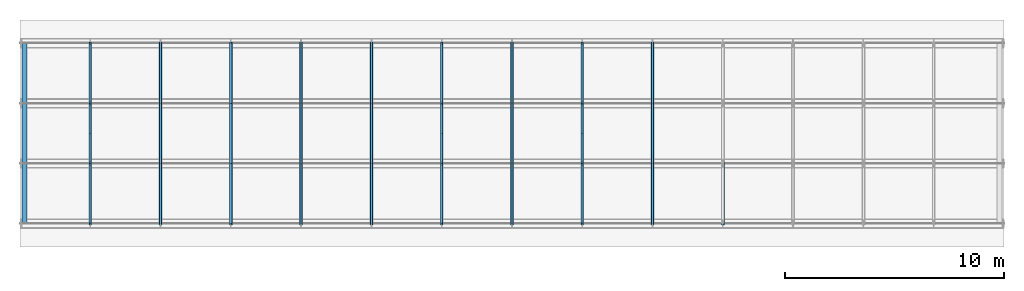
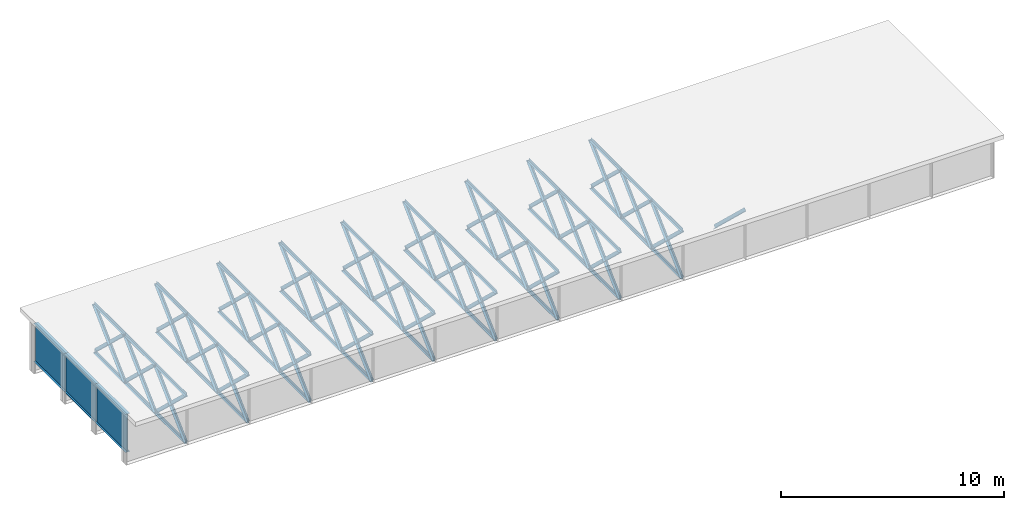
# One storey, part 1 of 13: 112 members.
"""IFC4 building model written with IfcOpenShell, lengths in metres."""

from ifc_helpers import new_model, si_unit, frame, origin, origin_with_axes, origin_2d_with_axis, place, context, subcontext, project, spatial, i_section, l_section, extrude, element, save


model = new_model("IFC4")

# Units and contexts
model_context = context("Model", 3, precision=1e-05, world=origin())
body_context = subcontext(model_context, "Body", "Model", "MODEL_VIEW")
ifc_project = project(units=[si_unit("LENGTHUNIT", "METRE"), si_unit("AREAUNIT", "SQUARE_METRE"), si_unit("VOLUMEUNIT", "CUBIC_METRE"), si_unit("PLANEANGLEUNIT", "RADIAN")], contexts=[model_context])

# Site, building, storey
site_placement = place(None, origin_with_axes())
site = spatial("IfcSite", under=ifc_project, at=site_placement, Name="Default Site")
building_placement = place(site_placement, origin_with_axes())
building = spatial("IfcBuilding", under=site, at=building_placement, Name="Bridge Structure")
storey_placement = place(building_placement, origin_with_axes())
storey = spatial("IfcBuildingStorey", under=building, at=storey_placement, Name="Superstructure")

# Members
for number, where, z_axis, x_axis, name in (
    (1, (0.2, -4.125, 0.261), (0.0, 1.0, 0.0), (-1.0, 0.0, 0.0), "End Diaphragm"),
    (2, (0.2, -1.375, 0.261), (0.0, 1.0, 0.0), (-1.0, 0.0, 0.0), "End Diaphragm"),
    (3, (0.2, 1.375, 0.261), (0.0, 1.0, 0.0), (-1.0, 0.0, 0.0), "End Diaphragm"),
):
    element("IfcMember", number, at=place(storey_placement, frame(where, z_axis=z_axis, x_axis=x_axis)), inside=storey, Name=name, context=body_context, shape_type="SweptSolid", body=[
        extrude(i_section(OverallWidth=0.225, OverallDepth=2.088, WebThickness=0.022, FlangeThickness=0.012, at=origin_2d_with_axis()), origin_with_axes(), (0.0, 0.0, 1.0), 2.75),
    ])
for number, where, z_axis, x_axis, name in (
    (4, (3.2142857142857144, -4.125, 1.305), (0.0, 0.7253286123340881, -0.6884027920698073), (-1.0, 0.0, 0.0), "Diagonal Brace"),
    (5, (3.2142857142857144, -4.125, -1.305), (0.0, 0.7253286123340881, 0.6884027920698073), (-1.0, 0.0, 0.0), "Diagonal Brace"),
):
    element("IfcMember", number, at=place(storey_placement, frame(where, z_axis=z_axis, x_axis=x_axis)), inside=storey, Name=name, context=body_context, shape_type="SweptSolid", body=[
        extrude(l_section(Depth=0.195, Width=0.13, Thickness=0.008, at=origin_2d_with_axis()), origin_with_axes(), (0.0, 0.0, 1.0), 3.791384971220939),
    ])
for number, where, z_axis, x_axis, name in (
    (6, (3.2142857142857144, -4.125, -1.305), (0.0, 1.0, 0.0), (-1.0, 0.0, 0.0), "Bottom Chord"),
    (7, (3.2142857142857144, -4.125, 1.305), (0.0, 1.0, 0.0), (-1.0, 0.0, 0.0), "Top Chord"),
):
    element("IfcMember", number, at=place(storey_placement, frame(where, z_axis=z_axis, x_axis=x_axis)), inside=storey, Name=name, context=body_context, shape_type="SweptSolid", body=[
        extrude(l_section(Depth=0.169, Width=0.10400000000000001, Thickness=0.008, at=origin_2d_with_axis()), origin_with_axes(), (0.0, 0.0, 1.0), 2.75),
    ])
for number, where, z_axis, x_axis, name in (
    (8, (3.2142857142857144, -1.375, 1.305), (0.0, 0.7253286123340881, -0.6884027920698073), (-1.0, 0.0, 0.0), "Diagonal Brace"),
    (9, (3.2142857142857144, -1.375, -1.305), (0.0, 0.7253286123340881, 0.6884027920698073), (-1.0, 0.0, 0.0), "Diagonal Brace"),
):
    element("IfcMember", number, at=place(storey_placement, frame(where, z_axis=z_axis, x_axis=x_axis)), inside=storey, Name=name, context=body_context, shape_type="SweptSolid", body=[
        extrude(l_section(Depth=0.195, Width=0.13, Thickness=0.008, at=origin_2d_with_axis()), origin_with_axes(), (0.0, 0.0, 1.0), 3.791384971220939),
    ])
for number, where, z_axis, x_axis, name in (
    (10, (3.2142857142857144, -1.375, -1.305), (0.0, 1.0, 0.0), (-1.0, 0.0, 0.0), "Bottom Chord"),
    (11, (3.2142857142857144, -1.375, 1.305), (0.0, 1.0, 0.0), (-1.0, 0.0, 0.0), "Top Chord"),
):
    element("IfcMember", number, at=place(storey_placement, frame(where, z_axis=z_axis, x_axis=x_axis)), inside=storey, Name=name, context=body_context, shape_type="SweptSolid", body=[
        extrude(l_section(Depth=0.169, Width=0.10400000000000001, Thickness=0.008, at=origin_2d_with_axis()), origin_with_axes(), (0.0, 0.0, 1.0), 2.75),
    ])
for number, where, z_axis, x_axis, name in (
    (12, (3.2142857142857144, 1.375, 1.305), (0.0, 0.7253286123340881, -0.6884027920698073), (-1.0, 0.0, 0.0), "Diagonal Brace"),
    (13, (3.2142857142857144, 1.375, -1.305), (0.0, 0.7253286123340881, 0.6884027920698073), (-1.0, 0.0, 0.0), "Diagonal Brace"),
):
    element("IfcMember", number, at=place(storey_placement, frame(where, z_axis=z_axis, x_axis=x_axis)), inside=storey, Name=name, context=body_context, shape_type="SweptSolid", body=[
        extrude(l_section(Depth=0.195, Width=0.13, Thickness=0.008, at=origin_2d_with_axis()), origin_with_axes(), (0.0, 0.0, 1.0), 3.791384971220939),
    ])
for number, where, z_axis, x_axis, name in (
    (14, (3.2142857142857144, 1.375, -1.305), (0.0, 1.0, 0.0), (-1.0, 0.0, 0.0), "Bottom Chord"),
    (15, (3.2142857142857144, 1.375, 1.305), (0.0, 1.0, 0.0), (-1.0, 0.0, 0.0), "Top Chord"),
):
    element("IfcMember", number, at=place(storey_placement, frame(where, z_axis=z_axis, x_axis=x_axis)), inside=storey, Name=name, context=body_context, shape_type="SweptSolid", body=[
        extrude(l_section(Depth=0.169, Width=0.10400000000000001, Thickness=0.008, at=origin_2d_with_axis()), origin_with_axes(), (0.0, 0.0, 1.0), 2.75),
    ])
for number, where, z_axis, x_axis, name in (
    (16, (6.428571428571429, -4.125, 1.305), (0.0, 0.7253286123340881, -0.6884027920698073), (-1.0, 0.0, 0.0), "Diagonal Brace"),
    (17, (6.428571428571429, -4.125, -1.305), (0.0, 0.7253286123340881, 0.6884027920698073), (-1.0, 0.0, 0.0), "Diagonal Brace"),
):
    element("IfcMember", number, at=place(storey_placement, frame(where, z_axis=z_axis, x_axis=x_axis)), inside=storey, Name=name, context=body_context, shape_type="SweptSolid", body=[
        extrude(l_section(Depth=0.195, Width=0.13, Thickness=0.008, at=origin_2d_with_axis()), origin_with_axes(), (0.0, 0.0, 1.0), 3.791384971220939),
    ])
for number, where, z_axis, x_axis, name in (
    (18, (6.428571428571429, -4.125, -1.305), (0.0, 1.0, 0.0), (-1.0, 0.0, 0.0), "Bottom Chord"),
    (19, (6.428571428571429, -4.125, 1.305), (0.0, 1.0, 0.0), (-1.0, 0.0, 0.0), "Top Chord"),
):
    element("IfcMember", number, at=place(storey_placement, frame(where, z_axis=z_axis, x_axis=x_axis)), inside=storey, Name=name, context=body_context, shape_type="SweptSolid", body=[
        extrude(l_section(Depth=0.169, Width=0.10400000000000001, Thickness=0.008, at=origin_2d_with_axis()), origin_with_axes(), (0.0, 0.0, 1.0), 2.75),
    ])
for number, where, z_axis, x_axis, name in (
    (20, (6.428571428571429, -1.375, 1.305), (0.0, 0.7253286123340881, -0.6884027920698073), (-1.0, 0.0, 0.0), "Diagonal Brace"),
    (21, (6.428571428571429, -1.375, -1.305), (0.0, 0.7253286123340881, 0.6884027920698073), (-1.0, 0.0, 0.0), "Diagonal Brace"),
):
    element("IfcMember", number, at=place(storey_placement, frame(where, z_axis=z_axis, x_axis=x_axis)), inside=storey, Name=name, context=body_context, shape_type="SweptSolid", body=[
        extrude(l_section(Depth=0.195, Width=0.13, Thickness=0.008, at=origin_2d_with_axis()), origin_with_axes(), (0.0, 0.0, 1.0), 3.791384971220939),
    ])
for number, where, z_axis, x_axis, name in (
    (22, (6.428571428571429, -1.375, -1.305), (0.0, 1.0, 0.0), (-1.0, 0.0, 0.0), "Bottom Chord"),
    (23, (6.428571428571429, -1.375, 1.305), (0.0, 1.0, 0.0), (-1.0, 0.0, 0.0), "Top Chord"),
):
    element("IfcMember", number, at=place(storey_placement, frame(where, z_axis=z_axis, x_axis=x_axis)), inside=storey, Name=name, context=body_context, shape_type="SweptSolid", body=[
        extrude(l_section(Depth=0.169, Width=0.10400000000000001, Thickness=0.008, at=origin_2d_with_axis()), origin_with_axes(), (0.0, 0.0, 1.0), 2.75),
    ])
for number, where, z_axis, x_axis, name in (
    (24, (6.428571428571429, 1.375, 1.305), (0.0, 0.7253286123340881, -0.6884027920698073), (-1.0, 0.0, 0.0), "Diagonal Brace"),
    (25, (6.428571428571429, 1.375, -1.305), (0.0, 0.7253286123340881, 0.6884027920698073), (-1.0, 0.0, 0.0), "Diagonal Brace"),
):
    element("IfcMember", number, at=place(storey_placement, frame(where, z_axis=z_axis, x_axis=x_axis)), inside=storey, Name=name, context=body_context, shape_type="SweptSolid", body=[
        extrude(l_section(Depth=0.195, Width=0.13, Thickness=0.008, at=origin_2d_with_axis()), origin_with_axes(), (0.0, 0.0, 1.0), 3.791384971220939),
    ])
for number, where, z_axis, x_axis, name in (
    (26, (6.428571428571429, 1.375, -1.305), (0.0, 1.0, 0.0), (-1.0, 0.0, 0.0), "Bottom Chord"),
    (27, (6.428571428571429, 1.375, 1.305), (0.0, 1.0, 0.0), (-1.0, 0.0, 0.0), "Top Chord"),
):
    element("IfcMember", number, at=place(storey_placement, frame(where, z_axis=z_axis, x_axis=x_axis)), inside=storey, Name=name, context=body_context, shape_type="SweptSolid", body=[
        extrude(l_section(Depth=0.169, Width=0.10400000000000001, Thickness=0.008, at=origin_2d_with_axis()), origin_with_axes(), (0.0, 0.0, 1.0), 2.75),
    ])
for number, where, z_axis, x_axis, name in (
    (28, (9.642857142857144, -4.125, 1.305), (0.0, 0.7253286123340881, -0.6884027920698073), (-1.0, 0.0, 0.0), "Diagonal Brace"),
    (29, (9.642857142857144, -4.125, -1.305), (0.0, 0.7253286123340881, 0.6884027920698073), (-1.0, 0.0, 0.0), "Diagonal Brace"),
):
    element("IfcMember", number, at=place(storey_placement, frame(where, z_axis=z_axis, x_axis=x_axis)), inside=storey, Name=name, context=body_context, shape_type="SweptSolid", body=[
        extrude(l_section(Depth=0.195, Width=0.13, Thickness=0.008, at=origin_2d_with_axis()), origin_with_axes(), (0.0, 0.0, 1.0), 3.791384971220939),
    ])
for number, where, z_axis, x_axis, name in (
    (30, (9.642857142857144, -4.125, -1.305), (0.0, 1.0, 0.0), (-1.0, 0.0, 0.0), "Bottom Chord"),
    (31, (9.642857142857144, -4.125, 1.305), (0.0, 1.0, 0.0), (-1.0, 0.0, 0.0), "Top Chord"),
):
    element("IfcMember", number, at=place(storey_placement, frame(where, z_axis=z_axis, x_axis=x_axis)), inside=storey, Name=name, context=body_context, shape_type="SweptSolid", body=[
        extrude(l_section(Depth=0.169, Width=0.10400000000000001, Thickness=0.008, at=origin_2d_with_axis()), origin_with_axes(), (0.0, 0.0, 1.0), 2.75),
    ])
for number, where, z_axis, x_axis, name in (
    (32, (9.642857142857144, -1.375, 1.305), (0.0, 0.7253286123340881, -0.6884027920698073), (-1.0, 0.0, 0.0), "Diagonal Brace"),
    (33, (9.642857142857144, -1.375, -1.305), (0.0, 0.7253286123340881, 0.6884027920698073), (-1.0, 0.0, 0.0), "Diagonal Brace"),
):
    element("IfcMember", number, at=place(storey_placement, frame(where, z_axis=z_axis, x_axis=x_axis)), inside=storey, Name=name, context=body_context, shape_type="SweptSolid", body=[
        extrude(l_section(Depth=0.195, Width=0.13, Thickness=0.008, at=origin_2d_with_axis()), origin_with_axes(), (0.0, 0.0, 1.0), 3.791384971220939),
    ])
for number, where, z_axis, x_axis, name in (
    (34, (9.642857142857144, -1.375, -1.305), (0.0, 1.0, 0.0), (-1.0, 0.0, 0.0), "Bottom Chord"),
    (35, (9.642857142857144, -1.375, 1.305), (0.0, 1.0, 0.0), (-1.0, 0.0, 0.0), "Top Chord"),
):
    element("IfcMember", number, at=place(storey_placement, frame(where, z_axis=z_axis, x_axis=x_axis)), inside=storey, Name=name, context=body_context, shape_type="SweptSolid", body=[
        extrude(l_section(Depth=0.169, Width=0.10400000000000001, Thickness=0.008, at=origin_2d_with_axis()), origin_with_axes(), (0.0, 0.0, 1.0), 2.75),
    ])
for number, where, z_axis, x_axis, name in (
    (36, (9.642857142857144, 1.375, 1.305), (0.0, 0.7253286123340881, -0.6884027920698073), (-1.0, 0.0, 0.0), "Diagonal Brace"),
    (37, (9.642857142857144, 1.375, -1.305), (0.0, 0.7253286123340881, 0.6884027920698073), (-1.0, 0.0, 0.0), "Diagonal Brace"),
):
    element("IfcMember", number, at=place(storey_placement, frame(where, z_axis=z_axis, x_axis=x_axis)), inside=storey, Name=name, context=body_context, shape_type="SweptSolid", body=[
        extrude(l_section(Depth=0.195, Width=0.13, Thickness=0.008, at=origin_2d_with_axis()), origin_with_axes(), (0.0, 0.0, 1.0), 3.791384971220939),
    ])
for number, where, z_axis, x_axis, name in (
    (38, (9.642857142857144, 1.375, -1.305), (0.0, 1.0, 0.0), (-1.0, 0.0, 0.0), "Bottom Chord"),
    (39, (9.642857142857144, 1.375, 1.305), (0.0, 1.0, 0.0), (-1.0, 0.0, 0.0), "Top Chord"),
):
    element("IfcMember", number, at=place(storey_placement, frame(where, z_axis=z_axis, x_axis=x_axis)), inside=storey, Name=name, context=body_context, shape_type="SweptSolid", body=[
        extrude(l_section(Depth=0.169, Width=0.10400000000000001, Thickness=0.008, at=origin_2d_with_axis()), origin_with_axes(), (0.0, 0.0, 1.0), 2.75),
    ])
for number, where, z_axis, x_axis, name in (
    (40, (12.857142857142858, -4.125, 1.305), (0.0, 0.7253286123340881, -0.6884027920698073), (-1.0, 0.0, 0.0), "Diagonal Brace"),
    (41, (12.857142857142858, -4.125, -1.305), (0.0, 0.7253286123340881, 0.6884027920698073), (-1.0, 0.0, 0.0), "Diagonal Brace"),
):
    element("IfcMember", number, at=place(storey_placement, frame(where, z_axis=z_axis, x_axis=x_axis)), inside=storey, Name=name, context=body_context, shape_type="SweptSolid", body=[
        extrude(l_section(Depth=0.195, Width=0.13, Thickness=0.008, at=origin_2d_with_axis()), origin_with_axes(), (0.0, 0.0, 1.0), 3.791384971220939),
    ])
for number, where, z_axis, x_axis, name in (
    (42, (12.857142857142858, -4.125, -1.305), (0.0, 1.0, 0.0), (-1.0, 0.0, 0.0), "Bottom Chord"),
    (43, (12.857142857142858, -4.125, 1.305), (0.0, 1.0, 0.0), (-1.0, 0.0, 0.0), "Top Chord"),
):
    element("IfcMember", number, at=place(storey_placement, frame(where, z_axis=z_axis, x_axis=x_axis)), inside=storey, Name=name, context=body_context, shape_type="SweptSolid", body=[
        extrude(l_section(Depth=0.169, Width=0.10400000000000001, Thickness=0.008, at=origin_2d_with_axis()), origin_with_axes(), (0.0, 0.0, 1.0), 2.75),
    ])
for number, where, z_axis, x_axis, name in (
    (44, (12.857142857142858, -1.375, 1.305), (0.0, 0.7253286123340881, -0.6884027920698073), (-1.0, 0.0, 0.0), "Diagonal Brace"),
    (45, (12.857142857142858, -1.375, -1.305), (0.0, 0.7253286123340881, 0.6884027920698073), (-1.0, 0.0, 0.0), "Diagonal Brace"),
):
    element("IfcMember", number, at=place(storey_placement, frame(where, z_axis=z_axis, x_axis=x_axis)), inside=storey, Name=name, context=body_context, shape_type="SweptSolid", body=[
        extrude(l_section(Depth=0.195, Width=0.13, Thickness=0.008, at=origin_2d_with_axis()), origin_with_axes(), (0.0, 0.0, 1.0), 3.791384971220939),
    ])
for number, where, z_axis, x_axis, name in (
    (46, (12.857142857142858, -1.375, -1.305), (0.0, 1.0, 0.0), (-1.0, 0.0, 0.0), "Bottom Chord"),
    (47, (12.857142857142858, -1.375, 1.305), (0.0, 1.0, 0.0), (-1.0, 0.0, 0.0), "Top Chord"),
):
    element("IfcMember", number, at=place(storey_placement, frame(where, z_axis=z_axis, x_axis=x_axis)), inside=storey, Name=name, context=body_context, shape_type="SweptSolid", body=[
        extrude(l_section(Depth=0.169, Width=0.10400000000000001, Thickness=0.008, at=origin_2d_with_axis()), origin_with_axes(), (0.0, 0.0, 1.0), 2.75),
    ])
for number, where, z_axis, x_axis, name in (
    (48, (12.857142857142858, 1.375, 1.305), (0.0, 0.7253286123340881, -0.6884027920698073), (-1.0, 0.0, 0.0), "Diagonal Brace"),
    (49, (12.857142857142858, 1.375, -1.305), (0.0, 0.7253286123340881, 0.6884027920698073), (-1.0, 0.0, 0.0), "Diagonal Brace"),
):
    element("IfcMember", number, at=place(storey_placement, frame(where, z_axis=z_axis, x_axis=x_axis)), inside=storey, Name=name, context=body_context, shape_type="SweptSolid", body=[
        extrude(l_section(Depth=0.195, Width=0.13, Thickness=0.008, at=origin_2d_with_axis()), origin_with_axes(), (0.0, 0.0, 1.0), 3.791384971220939),
    ])
for number, where, z_axis, x_axis, name in (
    (50, (12.857142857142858, 1.375, -1.305), (0.0, 1.0, 0.0), (-1.0, 0.0, 0.0), "Bottom Chord"),
    (51, (12.857142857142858, 1.375, 1.305), (0.0, 1.0, 0.0), (-1.0, 0.0, 0.0), "Top Chord"),
):
    element("IfcMember", number, at=place(storey_placement, frame(where, z_axis=z_axis, x_axis=x_axis)), inside=storey, Name=name, context=body_context, shape_type="SweptSolid", body=[
        extrude(l_section(Depth=0.169, Width=0.10400000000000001, Thickness=0.008, at=origin_2d_with_axis()), origin_with_axes(), (0.0, 0.0, 1.0), 2.75),
    ])
for number, where, z_axis, x_axis, name in (
    (52, (16.07142857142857, -4.125, 1.305), (0.0, 0.7253286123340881, -0.6884027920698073), (-1.0, 0.0, 0.0), "Diagonal Brace"),
    (53, (16.07142857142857, -4.125, -1.305), (0.0, 0.7253286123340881, 0.6884027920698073), (-1.0, 0.0, 0.0), "Diagonal Brace"),
):
    element("IfcMember", number, at=place(storey_placement, frame(where, z_axis=z_axis, x_axis=x_axis)), inside=storey, Name=name, context=body_context, shape_type="SweptSolid", body=[
        extrude(l_section(Depth=0.195, Width=0.13, Thickness=0.008, at=origin_2d_with_axis()), origin_with_axes(), (0.0, 0.0, 1.0), 3.791384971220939),
    ])
for number, where, z_axis, x_axis, name in (
    (54, (16.07142857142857, -4.125, -1.305), (0.0, 1.0, 0.0), (-1.0, 0.0, 0.0), "Bottom Chord"),
    (55, (16.07142857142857, -4.125, 1.305), (0.0, 1.0, 0.0), (-1.0, 0.0, 0.0), "Top Chord"),
):
    element("IfcMember", number, at=place(storey_placement, frame(where, z_axis=z_axis, x_axis=x_axis)), inside=storey, Name=name, context=body_context, shape_type="SweptSolid", body=[
        extrude(l_section(Depth=0.169, Width=0.10400000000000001, Thickness=0.008, at=origin_2d_with_axis()), origin_with_axes(), (0.0, 0.0, 1.0), 2.75),
    ])
for number, where, z_axis, x_axis, name in (
    (56, (16.07142857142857, -1.375, 1.305), (0.0, 0.7253286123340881, -0.6884027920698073), (-1.0, 0.0, 0.0), "Diagonal Brace"),
    (57, (16.07142857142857, -1.375, -1.305), (0.0, 0.7253286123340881, 0.6884027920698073), (-1.0, 0.0, 0.0), "Diagonal Brace"),
):
    element("IfcMember", number, at=place(storey_placement, frame(where, z_axis=z_axis, x_axis=x_axis)), inside=storey, Name=name, context=body_context, shape_type="SweptSolid", body=[
        extrude(l_section(Depth=0.195, Width=0.13, Thickness=0.008, at=origin_2d_with_axis()), origin_with_axes(), (0.0, 0.0, 1.0), 3.791384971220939),
    ])
for number, where, z_axis, x_axis, name in (
    (58, (16.07142857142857, -1.375, -1.305), (0.0, 1.0, 0.0), (-1.0, 0.0, 0.0), "Bottom Chord"),
    (59, (16.07142857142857, -1.375, 1.305), (0.0, 1.0, 0.0), (-1.0, 0.0, 0.0), "Top Chord"),
):
    element("IfcMember", number, at=place(storey_placement, frame(where, z_axis=z_axis, x_axis=x_axis)), inside=storey, Name=name, context=body_context, shape_type="SweptSolid", body=[
        extrude(l_section(Depth=0.169, Width=0.10400000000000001, Thickness=0.008, at=origin_2d_with_axis()), origin_with_axes(), (0.0, 0.0, 1.0), 2.75),
    ])
for number, where, z_axis, x_axis, name in (
    (60, (16.07142857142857, 1.375, 1.305), (0.0, 0.7253286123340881, -0.6884027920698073), (-1.0, 0.0, 0.0), "Diagonal Brace"),
    (61, (16.07142857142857, 1.375, -1.305), (0.0, 0.7253286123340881, 0.6884027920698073), (-1.0, 0.0, 0.0), "Diagonal Brace"),
):
    element("IfcMember", number, at=place(storey_placement, frame(where, z_axis=z_axis, x_axis=x_axis)), inside=storey, Name=name, context=body_context, shape_type="SweptSolid", body=[
        extrude(l_section(Depth=0.195, Width=0.13, Thickness=0.008, at=origin_2d_with_axis()), origin_with_axes(), (0.0, 0.0, 1.0), 3.791384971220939),
    ])
for number, where, z_axis, x_axis, name in (
    (62, (16.07142857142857, 1.375, -1.305), (0.0, 1.0, 0.0), (-1.0, 0.0, 0.0), "Bottom Chord"),
    (63, (16.07142857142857, 1.375, 1.305), (0.0, 1.0, 0.0), (-1.0, 0.0, 0.0), "Top Chord"),
):
    element("IfcMember", number, at=place(storey_placement, frame(where, z_axis=z_axis, x_axis=x_axis)), inside=storey, Name=name, context=body_context, shape_type="SweptSolid", body=[
        extrude(l_section(Depth=0.169, Width=0.10400000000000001, Thickness=0.008, at=origin_2d_with_axis()), origin_with_axes(), (0.0, 0.0, 1.0), 2.75),
    ])
for number, where, z_axis, x_axis, name in (
    (64, (19.28571428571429, -4.125, 1.305), (0.0, 0.7253286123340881, -0.6884027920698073), (-1.0, 0.0, 0.0), "Diagonal Brace"),
    (65, (19.28571428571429, -4.125, -1.305), (0.0, 0.7253286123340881, 0.6884027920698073), (-1.0, 0.0, 0.0), "Diagonal Brace"),
):
    element("IfcMember", number, at=place(storey_placement, frame(where, z_axis=z_axis, x_axis=x_axis)), inside=storey, Name=name, context=body_context, shape_type="SweptSolid", body=[
        extrude(l_section(Depth=0.195, Width=0.13, Thickness=0.008, at=origin_2d_with_axis()), origin_with_axes(), (0.0, 0.0, 1.0), 3.791384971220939),
    ])
for number, where, z_axis, x_axis, name in (
    (66, (19.28571428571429, -4.125, -1.305), (0.0, 1.0, 0.0), (-1.0, 0.0, 0.0), "Bottom Chord"),
    (67, (19.28571428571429, -4.125, 1.305), (0.0, 1.0, 0.0), (-1.0, 0.0, 0.0), "Top Chord"),
):
    element("IfcMember", number, at=place(storey_placement, frame(where, z_axis=z_axis, x_axis=x_axis)), inside=storey, Name=name, context=body_context, shape_type="SweptSolid", body=[
        extrude(l_section(Depth=0.169, Width=0.10400000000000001, Thickness=0.008, at=origin_2d_with_axis()), origin_with_axes(), (0.0, 0.0, 1.0), 2.75),
    ])
for number, where, z_axis, x_axis, name in (
    (68, (19.28571428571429, -1.375, 1.305), (0.0, 0.7253286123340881, -0.6884027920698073), (-1.0, 0.0, 0.0), "Diagonal Brace"),
    (69, (19.28571428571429, -1.375, -1.305), (0.0, 0.7253286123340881, 0.6884027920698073), (-1.0, 0.0, 0.0), "Diagonal Brace"),
):
    element("IfcMember", number, at=place(storey_placement, frame(where, z_axis=z_axis, x_axis=x_axis)), inside=storey, Name=name, context=body_context, shape_type="SweptSolid", body=[
        extrude(l_section(Depth=0.195, Width=0.13, Thickness=0.008, at=origin_2d_with_axis()), origin_with_axes(), (0.0, 0.0, 1.0), 3.791384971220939),
    ])
for number, where, z_axis, x_axis, name in (
    (70, (19.28571428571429, -1.375, -1.305), (0.0, 1.0, 0.0), (-1.0, 0.0, 0.0), "Bottom Chord"),
    (71, (19.28571428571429, -1.375, 1.305), (0.0, 1.0, 0.0), (-1.0, 0.0, 0.0), "Top Chord"),
):
    element("IfcMember", number, at=place(storey_placement, frame(where, z_axis=z_axis, x_axis=x_axis)), inside=storey, Name=name, context=body_context, shape_type="SweptSolid", body=[
        extrude(l_section(Depth=0.169, Width=0.10400000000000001, Thickness=0.008, at=origin_2d_with_axis()), origin_with_axes(), (0.0, 0.0, 1.0), 2.75),
    ])
for number, where, z_axis, x_axis, name in (
    (72, (19.28571428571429, 1.375, 1.305), (0.0, 0.7253286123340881, -0.6884027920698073), (-1.0, 0.0, 0.0), "Diagonal Brace"),
    (73, (19.28571428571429, 1.375, -1.305), (0.0, 0.7253286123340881, 0.6884027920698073), (-1.0, 0.0, 0.0), "Diagonal Brace"),
):
    element("IfcMember", number, at=place(storey_placement, frame(where, z_axis=z_axis, x_axis=x_axis)), inside=storey, Name=name, context=body_context, shape_type="SweptSolid", body=[
        extrude(l_section(Depth=0.195, Width=0.13, Thickness=0.008, at=origin_2d_with_axis()), origin_with_axes(), (0.0, 0.0, 1.0), 3.791384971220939),
    ])
for number, where, z_axis, x_axis, name in (
    (74, (19.28571428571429, 1.375, -1.305), (0.0, 1.0, 0.0), (-1.0, 0.0, 0.0), "Bottom Chord"),
    (75, (19.28571428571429, 1.375, 1.305), (0.0, 1.0, 0.0), (-1.0, 0.0, 0.0), "Top Chord"),
):
    element("IfcMember", number, at=place(storey_placement, frame(where, z_axis=z_axis, x_axis=x_axis)), inside=storey, Name=name, context=body_context, shape_type="SweptSolid", body=[
        extrude(l_section(Depth=0.169, Width=0.10400000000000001, Thickness=0.008, at=origin_2d_with_axis()), origin_with_axes(), (0.0, 0.0, 1.0), 2.75),
    ])
for number, where, z_axis, x_axis, name in (
    (76, (22.5, -4.125, 1.305), (0.0, 0.7253286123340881, -0.6884027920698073), (-1.0, 0.0, 0.0), "Diagonal Brace"),
    (77, (22.5, -4.125, -1.305), (0.0, 0.7253286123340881, 0.6884027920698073), (-1.0, 0.0, 0.0), "Diagonal Brace"),
):
    element("IfcMember", number, at=place(storey_placement, frame(where, z_axis=z_axis, x_axis=x_axis)), inside=storey, Name=name, context=body_context, shape_type="SweptSolid", body=[
        extrude(l_section(Depth=0.195, Width=0.13, Thickness=0.008, at=origin_2d_with_axis()), origin_with_axes(), (0.0, 0.0, 1.0), 3.791384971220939),
    ])
for number, where, z_axis, x_axis, name in (
    (78, (22.5, -4.125, -1.305), (0.0, 1.0, 0.0), (-1.0, 0.0, 0.0), "Bottom Chord"),
    (79, (22.5, -4.125, 1.305), (0.0, 1.0, 0.0), (-1.0, 0.0, 0.0), "Top Chord"),
):
    element("IfcMember", number, at=place(storey_placement, frame(where, z_axis=z_axis, x_axis=x_axis)), inside=storey, Name=name, context=body_context, shape_type="SweptSolid", body=[
        extrude(l_section(Depth=0.169, Width=0.10400000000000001, Thickness=0.008, at=origin_2d_with_axis()), origin_with_axes(), (0.0, 0.0, 1.0), 2.75),
    ])
for number, where, z_axis, x_axis, name in (
    (80, (22.5, -1.375, 1.305), (0.0, 0.7253286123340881, -0.6884027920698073), (-1.0, 0.0, 0.0), "Diagonal Brace"),
    (81, (22.5, -1.375, -1.305), (0.0, 0.7253286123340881, 0.6884027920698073), (-1.0, 0.0, 0.0), "Diagonal Brace"),
):
    element("IfcMember", number, at=place(storey_placement, frame(where, z_axis=z_axis, x_axis=x_axis)), inside=storey, Name=name, context=body_context, shape_type="SweptSolid", body=[
        extrude(l_section(Depth=0.195, Width=0.13, Thickness=0.008, at=origin_2d_with_axis()), origin_with_axes(), (0.0, 0.0, 1.0), 3.791384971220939),
    ])
for number, where, z_axis, x_axis, name in (
    (82, (22.5, -1.375, -1.305), (0.0, 1.0, 0.0), (-1.0, 0.0, 0.0), "Bottom Chord"),
    (83, (22.5, -1.375, 1.305), (0.0, 1.0, 0.0), (-1.0, 0.0, 0.0), "Top Chord"),
):
    element("IfcMember", number, at=place(storey_placement, frame(where, z_axis=z_axis, x_axis=x_axis)), inside=storey, Name=name, context=body_context, shape_type="SweptSolid", body=[
        extrude(l_section(Depth=0.169, Width=0.10400000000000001, Thickness=0.008, at=origin_2d_with_axis()), origin_with_axes(), (0.0, 0.0, 1.0), 2.75),
    ])
for number, where, z_axis, x_axis, name in (
    (84, (22.5, 1.375, 1.305), (0.0, 0.7253286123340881, -0.6884027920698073), (-1.0, 0.0, 0.0), "Diagonal Brace"),
    (85, (22.5, 1.375, -1.305), (0.0, 0.7253286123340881, 0.6884027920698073), (-1.0, 0.0, 0.0), "Diagonal Brace"),
):
    element("IfcMember", number, at=place(storey_placement, frame(where, z_axis=z_axis, x_axis=x_axis)), inside=storey, Name=name, context=body_context, shape_type="SweptSolid", body=[
        extrude(l_section(Depth=0.195, Width=0.13, Thickness=0.008, at=origin_2d_with_axis()), origin_with_axes(), (0.0, 0.0, 1.0), 3.791384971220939),
    ])
for number, where, z_axis, x_axis, name in (
    (86, (22.5, 1.375, -1.305), (0.0, 1.0, 0.0), (-1.0, 0.0, 0.0), "Bottom Chord"),
    (87, (22.5, 1.375, 1.305), (0.0, 1.0, 0.0), (-1.0, 0.0, 0.0), "Top Chord"),
):
    element("IfcMember", number, at=place(storey_placement, frame(where, z_axis=z_axis, x_axis=x_axis)), inside=storey, Name=name, context=body_context, shape_type="SweptSolid", body=[
        extrude(l_section(Depth=0.169, Width=0.10400000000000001, Thickness=0.008, at=origin_2d_with_axis()), origin_with_axes(), (0.0, 0.0, 1.0), 2.75),
    ])
for number, where, z_axis, x_axis, name in (
    (88, (25.714285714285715, -4.125, 1.305), (0.0, 0.7253286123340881, -0.6884027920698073), (-1.0, 0.0, 0.0), "Diagonal Brace"),
    (89, (25.714285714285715, -4.125, -1.305), (0.0, 0.7253286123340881, 0.6884027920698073), (-1.0, 0.0, 0.0), "Diagonal Brace"),
):
    element("IfcMember", number, at=place(storey_placement, frame(where, z_axis=z_axis, x_axis=x_axis)), inside=storey, Name=name, context=body_context, shape_type="SweptSolid", body=[
        extrude(l_section(Depth=0.195, Width=0.13, Thickness=0.008, at=origin_2d_with_axis()), origin_with_axes(), (0.0, 0.0, 1.0), 3.791384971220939),
    ])
for number, where, z_axis, x_axis, name in (
    (90, (25.714285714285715, -4.125, -1.305), (0.0, 1.0, 0.0), (-1.0, 0.0, 0.0), "Bottom Chord"),
    (91, (25.714285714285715, -4.125, 1.305), (0.0, 1.0, 0.0), (-1.0, 0.0, 0.0), "Top Chord"),
):
    element("IfcMember", number, at=place(storey_placement, frame(where, z_axis=z_axis, x_axis=x_axis)), inside=storey, Name=name, context=body_context, shape_type="SweptSolid", body=[
        extrude(l_section(Depth=0.169, Width=0.10400000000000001, Thickness=0.008, at=origin_2d_with_axis()), origin_with_axes(), (0.0, 0.0, 1.0), 2.75),
    ])
for number, where, z_axis, x_axis, name in (
    (92, (25.714285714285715, -1.375, 1.305), (0.0, 0.7253286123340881, -0.6884027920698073), (-1.0, 0.0, 0.0), "Diagonal Brace"),
    (93, (25.714285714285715, -1.375, -1.305), (0.0, 0.7253286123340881, 0.6884027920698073), (-1.0, 0.0, 0.0), "Diagonal Brace"),
):
    element("IfcMember", number, at=place(storey_placement, frame(where, z_axis=z_axis, x_axis=x_axis)), inside=storey, Name=name, context=body_context, shape_type="SweptSolid", body=[
        extrude(l_section(Depth=0.195, Width=0.13, Thickness=0.008, at=origin_2d_with_axis()), origin_with_axes(), (0.0, 0.0, 1.0), 3.791384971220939),
    ])
for number, where, z_axis, x_axis, name in (
    (94, (25.714285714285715, -1.375, -1.305), (0.0, 1.0, 0.0), (-1.0, 0.0, 0.0), "Bottom Chord"),
    (95, (25.714285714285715, -1.375, 1.305), (0.0, 1.0, 0.0), (-1.0, 0.0, 0.0), "Top Chord"),
):
    element("IfcMember", number, at=place(storey_placement, frame(where, z_axis=z_axis, x_axis=x_axis)), inside=storey, Name=name, context=body_context, shape_type="SweptSolid", body=[
        extrude(l_section(Depth=0.169, Width=0.10400000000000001, Thickness=0.008, at=origin_2d_with_axis()), origin_with_axes(), (0.0, 0.0, 1.0), 2.75),
    ])
for number, where, z_axis, x_axis, name in (
    (96, (25.714285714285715, 1.375, 1.305), (0.0, 0.7253286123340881, -0.6884027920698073), (-1.0, 0.0, 0.0), "Diagonal Brace"),
    (97, (25.714285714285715, 1.375, -1.305), (0.0, 0.7253286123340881, 0.6884027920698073), (-1.0, 0.0, 0.0), "Diagonal Brace"),
):
    element("IfcMember", number, at=place(storey_placement, frame(where, z_axis=z_axis, x_axis=x_axis)), inside=storey, Name=name, context=body_context, shape_type="SweptSolid", body=[
        extrude(l_section(Depth=0.195, Width=0.13, Thickness=0.008, at=origin_2d_with_axis()), origin_with_axes(), (0.0, 0.0, 1.0), 3.791384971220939),
    ])
for number, where, z_axis, x_axis, name in (
    (98, (25.714285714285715, 1.375, -1.305), (0.0, 1.0, 0.0), (-1.0, 0.0, 0.0), "Bottom Chord"),
    (99, (25.714285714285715, 1.375, 1.305), (0.0, 1.0, 0.0), (-1.0, 0.0, 0.0), "Top Chord"),
):
    element("IfcMember", number, at=place(storey_placement, frame(where, z_axis=z_axis, x_axis=x_axis)), inside=storey, Name=name, context=body_context, shape_type="SweptSolid", body=[
        extrude(l_section(Depth=0.169, Width=0.10400000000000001, Thickness=0.008, at=origin_2d_with_axis()), origin_with_axes(), (0.0, 0.0, 1.0), 2.75),
    ])
for number, where, z_axis, x_axis, name in (
    (100, (28.928571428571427, -4.125, 1.305), (0.0, 0.7253286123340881, -0.6884027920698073), (-1.0, 0.0, 0.0), "Diagonal Brace"),
    (101, (28.928571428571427, -4.125, -1.305), (0.0, 0.7253286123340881, 0.6884027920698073), (-1.0, 0.0, 0.0), "Diagonal Brace"),
):
    element("IfcMember", number, at=place(storey_placement, frame(where, z_axis=z_axis, x_axis=x_axis)), inside=storey, Name=name, context=body_context, shape_type="SweptSolid", body=[
        extrude(l_section(Depth=0.195, Width=0.13, Thickness=0.008, at=origin_2d_with_axis()), origin_with_axes(), (0.0, 0.0, 1.0), 3.791384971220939),
    ])
for number, where, z_axis, x_axis, name in (
    (102, (28.928571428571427, -4.125, -1.305), (0.0, 1.0, 0.0), (-1.0, 0.0, 0.0), "Bottom Chord"),
    (103, (28.928571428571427, -4.125, 1.305), (0.0, 1.0, 0.0), (-1.0, 0.0, 0.0), "Top Chord"),
):
    element("IfcMember", number, at=place(storey_placement, frame(where, z_axis=z_axis, x_axis=x_axis)), inside=storey, Name=name, context=body_context, shape_type="SweptSolid", body=[
        extrude(l_section(Depth=0.169, Width=0.10400000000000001, Thickness=0.008, at=origin_2d_with_axis()), origin_with_axes(), (0.0, 0.0, 1.0), 2.75),
    ])
for number, where, z_axis, x_axis, name in (
    (104, (28.928571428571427, -1.375, 1.305), (0.0, 0.7253286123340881, -0.6884027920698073), (-1.0, 0.0, 0.0), "Diagonal Brace"),
    (105, (28.928571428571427, -1.375, -1.305), (0.0, 0.7253286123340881, 0.6884027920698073), (-1.0, 0.0, 0.0), "Diagonal Brace"),
):
    element("IfcMember", number, at=place(storey_placement, frame(where, z_axis=z_axis, x_axis=x_axis)), inside=storey, Name=name, context=body_context, shape_type="SweptSolid", body=[
        extrude(l_section(Depth=0.195, Width=0.13, Thickness=0.008, at=origin_2d_with_axis()), origin_with_axes(), (0.0, 0.0, 1.0), 3.791384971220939),
    ])
for number, where, z_axis, x_axis, name in (
    (106, (28.928571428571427, -1.375, -1.305), (0.0, 1.0, 0.0), (-1.0, 0.0, 0.0), "Bottom Chord"),
    (107, (28.928571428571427, -1.375, 1.305), (0.0, 1.0, 0.0), (-1.0, 0.0, 0.0), "Top Chord"),
):
    element("IfcMember", number, at=place(storey_placement, frame(where, z_axis=z_axis, x_axis=x_axis)), inside=storey, Name=name, context=body_context, shape_type="SweptSolid", body=[
        extrude(l_section(Depth=0.169, Width=0.10400000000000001, Thickness=0.008, at=origin_2d_with_axis()), origin_with_axes(), (0.0, 0.0, 1.0), 2.75),
    ])
for number, where, z_axis, x_axis, name in (
    (108, (28.928571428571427, 1.375, 1.305), (0.0, 0.7253286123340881, -0.6884027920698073), (-1.0, 0.0, 0.0), "Diagonal Brace"),
    (109, (28.928571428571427, 1.375, -1.305), (0.0, 0.7253286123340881, 0.6884027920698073), (-1.0, 0.0, 0.0), "Diagonal Brace"),
):
    element("IfcMember", number, at=place(storey_placement, frame(where, z_axis=z_axis, x_axis=x_axis)), inside=storey, Name=name, context=body_context, shape_type="SweptSolid", body=[
        extrude(l_section(Depth=0.195, Width=0.13, Thickness=0.008, at=origin_2d_with_axis()), origin_with_axes(), (0.0, 0.0, 1.0), 3.791384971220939),
    ])
for number, where, z_axis, x_axis, name in (
    (110, (28.928571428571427, 1.375, -1.305), (0.0, 1.0, 0.0), (-1.0, 0.0, 0.0), "Bottom Chord"),
    (111, (28.928571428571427, 1.375, 1.305), (0.0, 1.0, 0.0), (-1.0, 0.0, 0.0), "Top Chord"),
):
    element("IfcMember", number, at=place(storey_placement, frame(where, z_axis=z_axis, x_axis=x_axis)), inside=storey, Name=name, context=body_context, shape_type="SweptSolid", body=[
        extrude(l_section(Depth=0.169, Width=0.10400000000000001, Thickness=0.008, at=origin_2d_with_axis()), origin_with_axes(), (0.0, 0.0, 1.0), 2.75),
    ])
member_placement = place(storey_placement, frame((32.14285714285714, -4.125, 1.305), z_axis=(0.0, 0.7253286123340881, -0.6884027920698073), x_axis=(-1.0, 0.0, 0.0)))
element("IfcMember", 112, at=member_placement, inside=storey, Name="Diagonal Brace", context=body_context, shape_type="SweptSolid", body=[
    extrude(l_section(Depth=0.195, Width=0.13, Thickness=0.008, at=origin_2d_with_axis()), origin_with_axes(), (0.0, 0.0, 1.0), 3.791384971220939),
])

save(model, "model.ifc")
